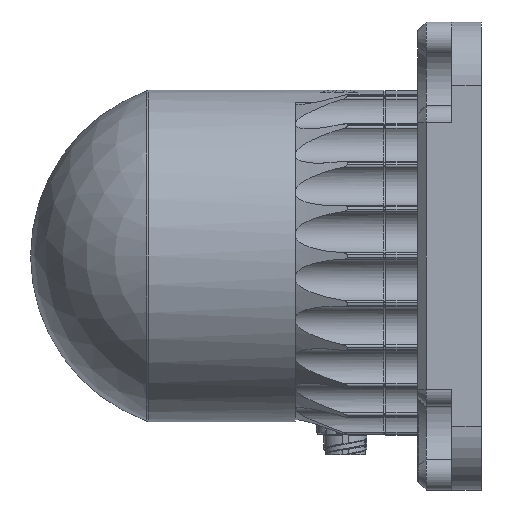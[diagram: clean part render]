
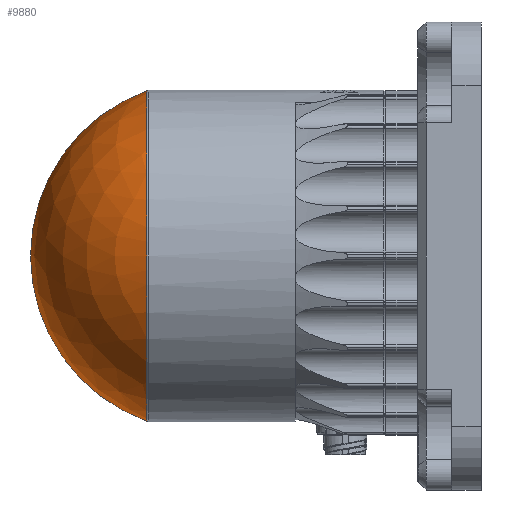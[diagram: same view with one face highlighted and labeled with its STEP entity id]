
A CAD part, left-side view. The second image highlights one B-rep face of the part: STEP entity #9880.
In plain terms, the highlighted spherical face has radius 41.2 mm.
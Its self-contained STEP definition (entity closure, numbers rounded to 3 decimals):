
#549 = CARTESIAN_POINT ( 'NONE',  ( 0., 42.267, 0. ) ) ;
#1300 = DIRECTION ( 'NONE',  ( 0., -1., 0. ) ) ;
#7601 = FACE_OUTER_BOUND ( 'NONE', #42608, .T. ) ;
#8261 = DIRECTION ( 'NONE',  ( 0., 0., -1. ) ) ;
#9880 = ADVANCED_FACE ( 'NONE', ( #7601 ), #18353, .T. ) ;
#12040 = CARTESIAN_POINT ( 'NONE',  ( 0., 56.152, 0. ) ) ;
#14955 = ORIENTED_EDGE ( 'NONE', *, *, #45960, .T. ) ;
#15107 = CARTESIAN_POINT ( 'NONE',  ( 0., 83.467, 0. ) ) ;
#18353 = SPHERICAL_SURFACE ( 'NONE', #55556, 41.2 ) ;
#21820 = AXIS2_PLACEMENT_3D ( 'NONE', #42132, #102573, #83159 ) ;
#36896 = CIRCLE ( 'NONE', #21820, 41.2 ) ;
#40204 = ORIENTED_EDGE ( 'NONE', *, *, #127030, .F. ) ;
#42132 = CARTESIAN_POINT ( 'NONE',  ( 0., 42.267, 0. ) ) ;
#42608 = EDGE_LOOP ( 'NONE', ( #78004, #14955, #40204 ) ) ;
#45960 = EDGE_CURVE ( 'NONE', #93223, #114792, #95421, .T. ) ;
#46018 = AXIS2_PLACEMENT_3D ( 'NONE', #12040, #1300, #125545 ) ;
#55556 = AXIS2_PLACEMENT_3D ( 'NONE', #112393, #59453, #8261 ) ;
#59453 = DIRECTION ( 'NONE',  ( 1., 0., 0. ) ) ;
#60357 = VERTEX_POINT ( 'NONE', #80439 ) ;
#62489 = DIRECTION ( 'NONE',  ( 0., 0., 1. ) ) ;
#65358 = CIRCLE ( 'NONE', #46018, 38.79 ) ;
#78004 = ORIENTED_EDGE ( 'NONE', *, *, #103641, .F. ) ;
#80439 = CARTESIAN_POINT ( 'NONE',  ( 0., 56.152, 38.79 ) ) ;
#82630 = AXIS2_PLACEMENT_3D ( 'NONE', #549, #121461, #62489 ) ;
#82891 = CARTESIAN_POINT ( 'NONE',  ( 0., 56.152, -38.79 ) ) ;
#83159 = DIRECTION ( 'NONE',  ( 0., 0., -1. ) ) ;
#93223 = VERTEX_POINT ( 'NONE', #15107 ) ;
#95421 = CIRCLE ( 'NONE', #82630, 41.2 ) ;
#102573 = DIRECTION ( 'NONE',  ( 1., 0., 0. ) ) ;
#103641 = EDGE_CURVE ( 'NONE', #93223, #60357, #36896, .T. ) ;
#112393 = CARTESIAN_POINT ( 'NONE',  ( 0., 42.267, 0. ) ) ;
#114792 = VERTEX_POINT ( 'NONE', #82891 ) ;
#121461 = DIRECTION ( 'NONE',  ( -1., 0., 0. ) ) ;
#125545 = DIRECTION ( 'NONE',  ( 0., 0., -1. ) ) ;
#127030 = EDGE_CURVE ( 'NONE', #60357, #114792, #65358, .T. ) ;
